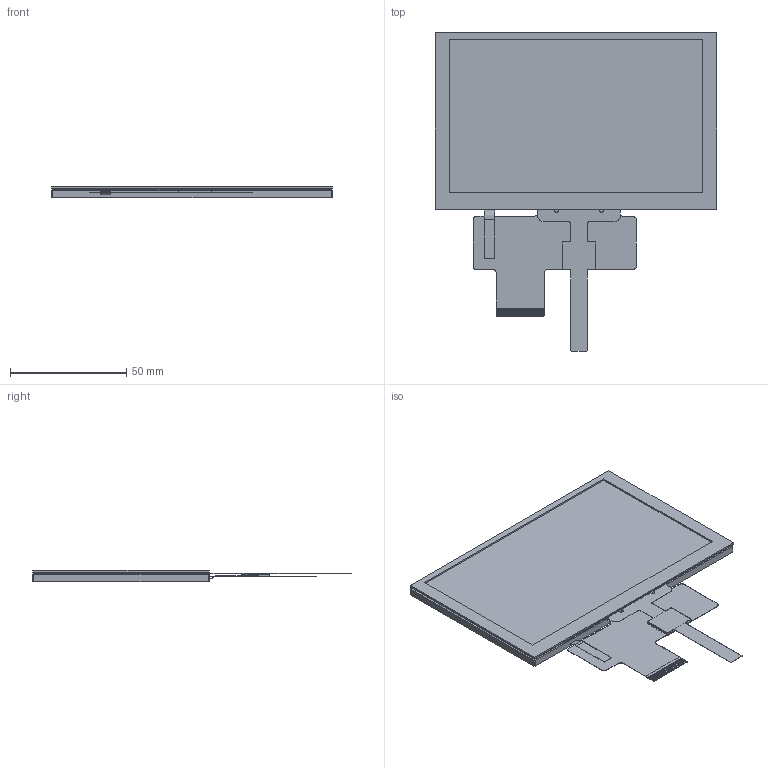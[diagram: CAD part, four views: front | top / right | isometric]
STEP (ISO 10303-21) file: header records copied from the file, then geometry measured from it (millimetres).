
FILE_DESCRIPTION (( 'STEP AP214' ), '1' );
FILE_NAME ('NHD-5.0-800480TF-ATXL#-CTP.STEP', '2019-01-04T21:35:23', ( '' ), ( '' ), 'SwSTEP 2.0', 'SolidWorks 2018', '' );
FILE_SCHEMA (( 'AUTOMOTIVE_DESIGN' ));
Length unit declared in the file: millimetre
Products named in the file (3): NHD-5.0-800480TF-ATXL#-CTP; NHD-5.0-800480TF-ATXL#; NHD-CTP-5.0K_Rev1A
Assembly tree (2 placements, depth 2):
  NHD-5.0-800480TF-ATXL#-CTP
    NHD-5.0-800480TF-ATXL#
    NHD-CTP-5.0K_Rev1A
Bounding box: 120.7 x 136.8 x 4.77 mm (x, y, z)
Volume: 36903.5 mm3; surface area: 59162.7 mm2
Topology: 4 solids, 4 shells, 309 faces, 889 edges, 590 vertices
Faces by surface type: plane 277, cylinder 30, bspline 2
Entity records: 10143 total; most frequent: CARTESIAN_POINT 1849, ORIENTED_EDGE 1778, DIRECTION 1571, EDGE_CURVE 889, LINE 823, VECTOR 823, VERTEX_POINT 590, AXIS2_PLACEMENT_3D 374
